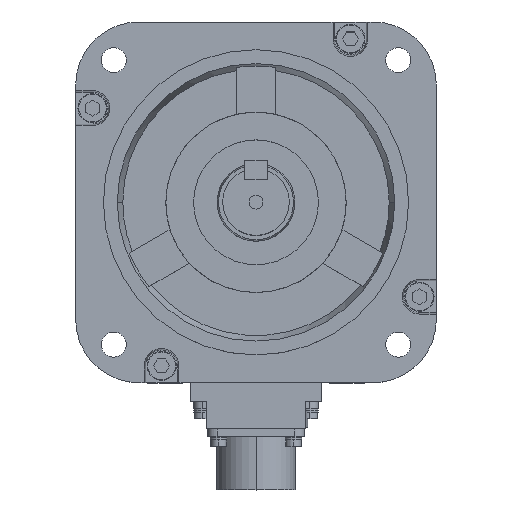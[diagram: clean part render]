
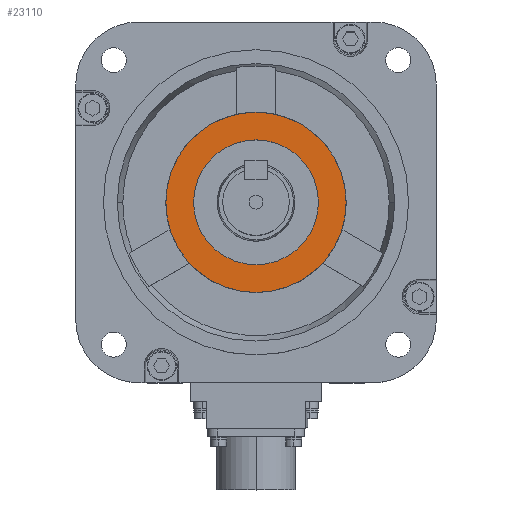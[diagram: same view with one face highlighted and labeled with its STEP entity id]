
A CAD part, top view. The second image highlights one B-rep face of the part: STEP entity #23110.
In plain terms, the highlighted planar face has unit normal (0, 0, 1).
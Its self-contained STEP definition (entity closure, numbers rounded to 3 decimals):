
#3676 = VERTEX_POINT ( 'NONE', #9178 ) ;
#3791 = EDGE_CURVE ( 'NONE', #3676, #3937, #9242, .T. ) ;
#3937 = VERTEX_POINT ( 'NONE', #9238 ) ;
#9178 = CARTESIAN_POINT ( 'NONE',  ( 32.5, 0., 6. ) ) ;
#9238 = CARTESIAN_POINT ( 'NONE',  ( -32.5, 0., 6. ) ) ;
#9239 = DIRECTION ( 'NONE',  ( 1., 0., 0. ) ) ;
#9240 = DIRECTION ( 'NONE',  ( 0., 0., 1. ) ) ;
#9241 = AXIS2_PLACEMENT_3D ( 'NONE', #9247, #9240, #9239 ) ;
#9242 = CIRCLE ( 'NONE', #9241, 32.5 ) ;
#9247 = CARTESIAN_POINT ( 'NONE',  ( 0., 0., 6. ) ) ;
#12090 = DIRECTION ( 'NONE',  ( 1., 0., 0. ) ) ;
#12091 = DIRECTION ( 'NONE',  ( 0., 0., 1. ) ) ;
#12092 = CARTESIAN_POINT ( 'NONE',  ( 0., 0., 6. ) ) ;
#12093 = AXIS2_PLACEMENT_3D ( 'NONE', #12092, #12091, #12090 ) ;
#12094 = PLANE ( 'NONE',  #12093 ) ;
#12101 = FACE_OUTER_BOUND ( 'NONE', #22928, .T. ) ;
#12103 = FACE_BOUND ( 'NONE', #22944, .T. ) ;
#12118 = DIRECTION ( 'NONE',  ( 1., 0., 0. ) ) ;
#12119 = DIRECTION ( 'NONE',  ( 0., 0., 1. ) ) ;
#12120 = CARTESIAN_POINT ( 'NONE',  ( 0., 0., 6. ) ) ;
#12121 = AXIS2_PLACEMENT_3D ( 'NONE', #12120, #12119, #12118 ) ;
#12122 = CIRCLE ( 'NONE', #12121, 22.5 ) ;
#15029 = DIRECTION ( 'NONE',  ( 0., 0., 1. ) ) ;
#15030 = CARTESIAN_POINT ( 'NONE',  ( 0., 0., 6. ) ) ;
#15031 = AXIS2_PLACEMENT_3D ( 'NONE', #15030, #15029, #15095 ) ;
#15032 = CIRCLE ( 'NONE', #15031, 32.5 ) ;
#15095 = DIRECTION ( 'NONE',  ( 1., 0., 0. ) ) ;
#20509 = CARTESIAN_POINT ( 'NONE',  ( -22.5, 0., 6. ) ) ;
#21648 = CARTESIAN_POINT ( 'NONE',  ( 22.5, 0., 6. ) ) ;
#21719 = DIRECTION ( 'NONE',  ( 1., 0., 0. ) ) ;
#21720 = DIRECTION ( 'NONE',  ( 0., 0., 1. ) ) ;
#21721 = AXIS2_PLACEMENT_3D ( 'NONE', #21728, #21720, #21719 ) ;
#21722 = CIRCLE ( 'NONE', #21721, 22.5 ) ;
#21728 = CARTESIAN_POINT ( 'NONE',  ( 0., 0., 6. ) ) ;
#22841 = ORIENTED_EDGE ( 'NONE', *, *, #24494, .T. ) ;
#22876 = ORIENTED_EDGE ( 'NONE', *, *, #3791, .T. ) ;
#22928 = EDGE_LOOP ( 'NONE', ( #22876, #22841 ) ) ;
#22935 = ORIENTED_EDGE ( 'NONE', *, *, #29048, .F. ) ;
#22944 = EDGE_LOOP ( 'NONE', ( #22949, #22935 ) ) ;
#22949 = ORIENTED_EDGE ( 'NONE', *, *, #23129, .F. ) ;
#23110 = ADVANCED_FACE ( 'NONE', ( #12103, #12101 ), #12094, .T. ) ;
#23129 = EDGE_CURVE ( 'NONE', #29015, #28279, #12122, .T. ) ;
#24494 = EDGE_CURVE ( 'NONE', #3937, #3676, #15032, .T. ) ;
#28279 = VERTEX_POINT ( 'NONE', #20509 ) ;
#29015 = VERTEX_POINT ( 'NONE', #21648 ) ;
#29048 = EDGE_CURVE ( 'NONE', #28279, #29015, #21722, .T. ) ;
